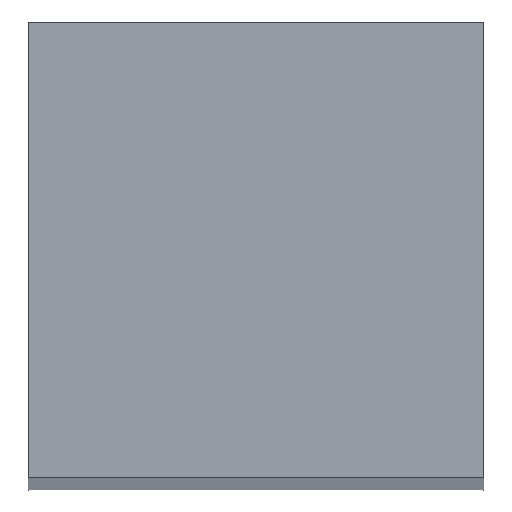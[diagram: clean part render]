
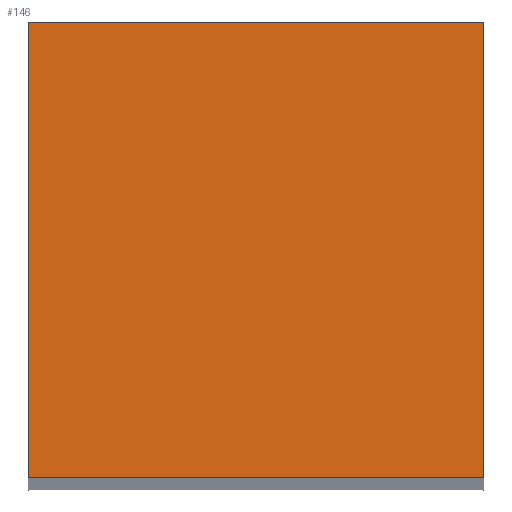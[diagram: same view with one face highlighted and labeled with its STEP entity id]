
A CAD part, top view. The second image highlights one B-rep face of the part: STEP entity #146.
In plain terms, the highlighted planar face has unit normal (0, 0, 1).
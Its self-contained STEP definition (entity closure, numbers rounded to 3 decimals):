
#82 = VECTOR ( 'NONE', #689, 1000. ) ;
#96 = EDGE_LOOP ( 'NONE', ( #683, #677, #659, #658 ) ) ;
#140 = CARTESIAN_POINT ( 'NONE',  ( -7.625, 7.625, 260. ) ) ;
#146 = ADVANCED_FACE ( 'NONE', ( #870 ), #317, .F. ) ;
#223 = LINE ( 'NONE', #685, #82 ) ;
#278 = VERTEX_POINT ( 'NONE', #1103 ) ;
#290 = CARTESIAN_POINT ( 'NONE',  ( -7.625, -7.625, 260. ) ) ;
#291 = DIRECTION ( 'NONE',  ( 1., 0., 0. ) ) ;
#317 = PLANE ( 'NONE',  #510 ) ;
#320 = CARTESIAN_POINT ( 'NONE',  ( -7.625, 7.625, 260. ) ) ;
#323 = DIRECTION ( 'NONE',  ( 0., 0., -1. ) ) ;
#355 = VERTEX_POINT ( 'NONE', #1061 ) ;
#471 = LINE ( 'NONE', #140, #472 ) ;
#472 = VECTOR ( 'NONE', #590, 1000. ) ;
#474 = LINE ( 'NONE', #290, #740 ) ;
#510 = AXIS2_PLACEMENT_3D ( 'NONE', #320, #323, #619 ) ;
#590 = DIRECTION ( 'NONE',  ( -1., 0., 0. ) ) ;
#619 = DIRECTION ( 'NONE',  ( -1., 0., 0. ) ) ;
#658 = ORIENTED_EDGE ( 'NONE', *, *, #1234, .T. ) ;
#659 = ORIENTED_EDGE ( 'NONE', *, *, #1215, .T. ) ;
#666 = LINE ( 'NONE', #791, #673 ) ;
#673 = VECTOR ( 'NONE', #800, 1000. ) ;
#677 = ORIENTED_EDGE ( 'NONE', *, *, #1251, .T. ) ;
#683 = ORIENTED_EDGE ( 'NONE', *, *, #1185, .T. ) ;
#685 = CARTESIAN_POINT ( 'NONE',  ( -7.625, -7.625, 260. ) ) ;
#689 = DIRECTION ( 'NONE',  ( 0., -1., 0. ) ) ;
#712 = CARTESIAN_POINT ( 'NONE',  ( 7.625, 7.625, 260. ) ) ;
#740 = VECTOR ( 'NONE', #291, 1000. ) ;
#749 = CARTESIAN_POINT ( 'NONE',  ( 7.625, -7.625, 260. ) ) ;
#791 = CARTESIAN_POINT ( 'NONE',  ( 7.625, -7.625, 260. ) ) ;
#800 = DIRECTION ( 'NONE',  ( 0., 1., 0. ) ) ;
#870 = FACE_OUTER_BOUND ( 'NONE', #96, .T. ) ;
#1061 = CARTESIAN_POINT ( 'NONE',  ( -7.625, -7.625, 260. ) ) ;
#1103 = CARTESIAN_POINT ( 'NONE',  ( -7.625, 7.625, 260. ) ) ;
#1129 = VERTEX_POINT ( 'NONE', #749 ) ;
#1139 = VERTEX_POINT ( 'NONE', #712 ) ;
#1185 = EDGE_CURVE ( 'NONE', #278, #355, #223, .T. ) ;
#1215 = EDGE_CURVE ( 'NONE', #1129, #1139, #666, .T. ) ;
#1234 = EDGE_CURVE ( 'NONE', #1139, #278, #471, .T. ) ;
#1251 = EDGE_CURVE ( 'NONE', #355, #1129, #474, .T. ) ;
